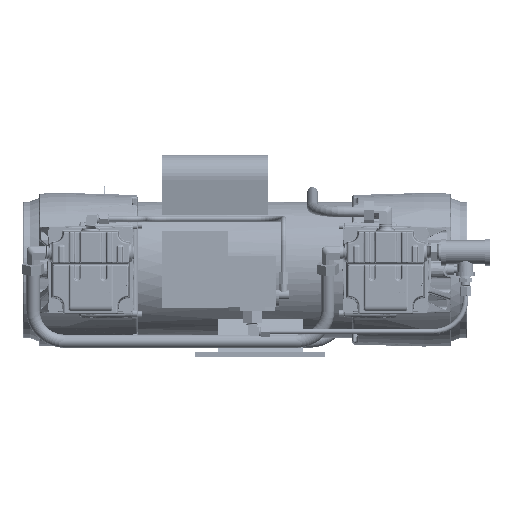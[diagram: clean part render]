
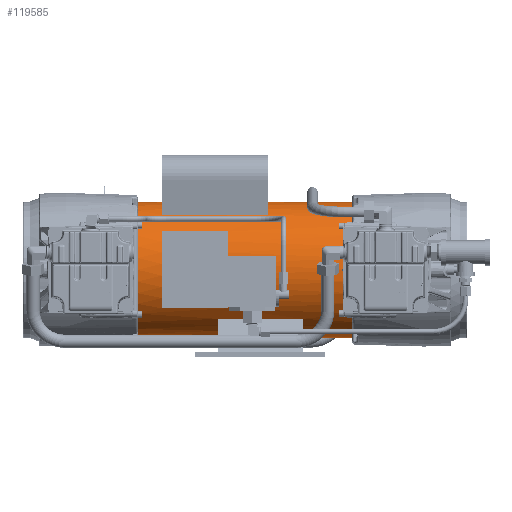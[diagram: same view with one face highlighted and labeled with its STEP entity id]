
A CAD part, left-side view. The second image highlights one B-rep face of the part: STEP entity #119585.
In plain terms, the highlighted cylindrical face has radius 81.534 mm (diameter 163.068 mm), a partial arc.
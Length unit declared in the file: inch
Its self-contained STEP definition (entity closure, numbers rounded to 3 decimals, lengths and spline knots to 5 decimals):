
#1160 = VERTEX_POINT ( 'NONE', #35369 ) ;
#3156 = ORIENTED_EDGE ( 'NONE', *, *, #183098, .T. ) ;
#4837 = AXIS2_PLACEMENT_3D ( 'NONE', #84893, #201835, #101775 ) ;
#5405 = DIRECTION ( 'NONE',  ( 0., 1., 0. ) ) ;
#8984 = CARTESIAN_POINT ( 'NONE',  ( 0., -5.054, 3.21 ) ) ;
#10658 = ORIENTED_EDGE ( 'NONE', *, *, #124179, .F. ) ;
#11564 = VERTEX_POINT ( 'NONE', #149663 ) ;
#11661 = EDGE_CURVE ( 'NONE', #159170, #31722, #138720, .T. ) ;
#17019 = VECTOR ( 'NONE', #211091, 39.37008 ) ;
#19076 = DIRECTION ( 'NONE',  ( 0., 1., 0. ) ) ;
#20092 = DIRECTION ( 'NONE',  ( 0., 1., 0. ) ) ;
#21128 = CARTESIAN_POINT ( 'NONE',  ( 0., -5.054, 0. ) ) ;
#21338 = CARTESIAN_POINT ( 'NONE',  ( 0., -1.074, 3.21 ) ) ;
#21406 = VECTOR ( 'NONE', #142877, 39.37008 ) ;
#21585 = ORIENTED_EDGE ( 'NONE', *, *, #61392, .T. ) ;
#22425 = VECTOR ( 'NONE', #208206, 39.37008 ) ;
#23286 = VERTEX_POINT ( 'NONE', #60911 ) ;
#23593 = EDGE_CURVE ( 'NONE', #23286, #11564, #99303, .T. ) ;
#23765 = CARTESIAN_POINT ( 'NONE',  ( 0., 5.054, -3.21 ) ) ;
#24825 = EDGE_CURVE ( 'NONE', #58344, #174805, #46529, .T. ) ;
#25384 = ORIENTED_EDGE ( 'NONE', *, *, #207524, .T. ) ;
#27070 = AXIS2_PLACEMENT_3D ( 'NONE', #59803, #176911, #76717 ) ;
#28782 = EDGE_LOOP ( 'NONE', ( #183959, #76843, #21585, #148732, #59742, #25384, #109341, #172781, #10658, #55379, #100307, #175374 ) ) ;
#30548 = CARTESIAN_POINT ( 'NONE',  ( -2.65104, 3.926, -1.81 ) ) ;
#31428 = EDGE_CURVE ( 'NONE', #180318, #156882, #81082, .T. ) ;
#31722 = VERTEX_POINT ( 'NONE', #139148 ) ;
#34619 = CARTESIAN_POINT ( 'NONE',  ( -2.65104, 0.786, 1.81 ) ) ;
#35369 = CARTESIAN_POINT ( 'NONE',  ( 0., 1.276, -3.21 ) ) ;
#36359 = CARTESIAN_POINT ( 'NONE',  ( 0., -5.054, -3.21 ) ) ;
#37863 = CARTESIAN_POINT ( 'NONE',  ( -2.65104, 0.786, 1.81 ) ) ;
#46529 = LINE ( 'NONE', #34619, #185243 ) ;
#48181 = AXIS2_PLACEMENT_3D ( 'NONE', #21128, #121373, #188592 ) ;
#52702 = DIRECTION ( 'NONE',  ( 0., 1., 0. ) ) ;
#54415 = VERTEX_POINT ( 'NONE', #187391 ) ;
#55379 = ORIENTED_EDGE ( 'NONE', *, *, #147557, .T. ) ;
#55453 = DIRECTION ( 'NONE',  ( 0., 1., 0. ) ) ;
#56365 = EDGE_CURVE ( 'NONE', #56701, #67485, #108965, .T. ) ;
#56701 = VERTEX_POINT ( 'NONE', #214790 ) ;
#56715 = FACE_BOUND ( 'NONE', #90553, .T. ) ;
#57564 = EDGE_CURVE ( 'NONE', #101145, #130739, #77238, .T. ) ;
#58049 = CARTESIAN_POINT ( 'NONE',  ( -1.88159, 3.926, 2.60072 ) ) ;
#58344 = VERTEX_POINT ( 'NONE', #37863 ) ;
#58566 = EDGE_CURVE ( 'NONE', #11564, #92743, #189664, .T. ) ;
#59742 = ORIENTED_EDGE ( 'NONE', *, *, #103836, .F. ) ;
#59803 = CARTESIAN_POINT ( 'NONE',  ( 0., 3.926, 0. ) ) ;
#60911 = CARTESIAN_POINT ( 'NONE',  ( 0., -2.724, -3.21 ) ) ;
#61006 = DIRECTION ( 'NONE',  ( 0., 1., 0. ) ) ;
#61392 = EDGE_CURVE ( 'NONE', #31722, #67485, #66889, .T. ) ;
#63075 = ORIENTED_EDGE ( 'NONE', *, *, #24825, .F. ) ;
#66889 = LINE ( 'NONE', #157182, #22425 ) ;
#67485 = VERTEX_POINT ( 'NONE', #21338 ) ;
#67953 = CARTESIAN_POINT ( 'NONE',  ( -2.65104, 0.786, -1.81 ) ) ;
#70012 = DIRECTION ( 'NONE',  ( 0., 1., 0. ) ) ;
#73973 = AXIS2_PLACEMENT_3D ( 'NONE', #119342, #19076, #136223 ) ;
#75202 = LINE ( 'NONE', #58049, #203338 ) ;
#76717 = DIRECTION ( 'NONE',  ( 1., 0., 0. ) ) ;
#76843 = ORIENTED_EDGE ( 'NONE', *, *, #11661, .T. ) ;
#77238 = CIRCLE ( 'NONE', #4837, 3.21 ) ;
#81082 = LINE ( 'NONE', #127692, #209226 ) ;
#81253 = DIRECTION ( 'NONE',  ( 0., 1., 0. ) ) ;
#84893 = CARTESIAN_POINT ( 'NONE',  ( 0., 5.054, 0. ) ) ;
#86284 = AXIS2_PLACEMENT_3D ( 'NONE', #153031, #52702, #169851 ) ;
#90553 = EDGE_LOOP ( 'NONE', ( #3156, #63075, #158650, #162575 ) ) ;
#92743 = VERTEX_POINT ( 'NONE', #184199 ) ;
#93510 = DIRECTION ( 'NONE',  ( 0., 1., 0. ) ) ;
#99303 = CIRCLE ( 'NONE', #86284, 3.21 ) ;
#100307 = ORIENTED_EDGE ( 'NONE', *, *, #58566, .F. ) ;
#101145 = VERTEX_POINT ( 'NONE', #23765 ) ;
#101315 = FACE_OUTER_BOUND ( 'NONE', #28782, .T. ) ;
#101775 = DIRECTION ( 'NONE',  ( 1., 0., 0. ) ) ;
#103836 = EDGE_CURVE ( 'NONE', #160414, #56701, #75202, .T. ) ;
#105371 = AXIS2_PLACEMENT_3D ( 'NONE', #155737, #55453, #172541 ) ;
#105608 = CARTESIAN_POINT ( 'NONE',  ( 0., -5.054, 0. ) ) ;
#106305 = EDGE_CURVE ( 'NONE', #180318, #58344, #181835, .T. ) ;
#108644 = DIRECTION ( 'NONE',  ( 0., -1., 0. ) ) ;
#108965 = CIRCLE ( 'NONE', #160276, 3.21 ) ;
#109341 = ORIENTED_EDGE ( 'NONE', *, *, #156167, .T. ) ;
#111063 = CARTESIAN_POINT ( 'NONE',  ( -2.22813, -2.724, -2.31074 ) ) ;
#112627 = CIRCLE ( 'NONE', #73973, 3.21 ) ;
#119342 = CARTESIAN_POINT ( 'NONE',  ( 0., 3.926, 0. ) ) ;
#119585 = ADVANCED_FACE ( 'NONE', ( #101315, #56715 ), #140611, .T. ) ;
#120376 = CARTESIAN_POINT ( 'NONE',  ( 0., 1.276, 0. ) ) ;
#121373 = DIRECTION ( 'NONE',  ( 0., 1., 0. ) ) ;
#122423 = DIRECTION ( 'NONE',  ( 1., 0., 0. ) ) ;
#124179 = EDGE_CURVE ( 'NONE', #1160, #101145, #125465, .T. ) ;
#125465 = LINE ( 'NONE', #36359, #193330 ) ;
#127692 = CARTESIAN_POINT ( 'NONE',  ( -2.65104, 0.786, -1.81 ) ) ;
#128324 = CARTESIAN_POINT ( 'NONE',  ( -2.65104, 3.926, 1.81 ) ) ;
#128518 = AXIS2_PLACEMENT_3D ( 'NONE', #120376, #20092, #137234 ) ;
#128786 = LINE ( 'NONE', #192878, #167985 ) ;
#130739 = VERTEX_POINT ( 'NONE', #145235 ) ;
#130865 = CARTESIAN_POINT ( 'NONE',  ( -1.88159, 3.926, 2.60072 ) ) ;
#131226 = CIRCLE ( 'NONE', #128518, 3.21 ) ;
#136223 = DIRECTION ( 'NONE',  ( 1., 0., 0. ) ) ;
#137234 = DIRECTION ( 'NONE',  ( 1., 0., 0. ) ) ;
#138720 = CIRCLE ( 'NONE', #160410, 3.21 ) ;
#139148 = CARTESIAN_POINT ( 'NONE',  ( 0., -5.054, 3.21 ) ) ;
#140611 = CYLINDRICAL_SURFACE ( 'NONE', #48181, 3.21 ) ;
#142877 = DIRECTION ( 'NONE',  ( 0., 1., 0. ) ) ;
#145235 = CARTESIAN_POINT ( 'NONE',  ( 0., 5.054, 3.21 ) ) ;
#147557 = EDGE_CURVE ( 'NONE', #1160, #92743, #131226, .T. ) ;
#148732 = ORIENTED_EDGE ( 'NONE', *, *, #56365, .F. ) ;
#149663 = CARTESIAN_POINT ( 'NONE',  ( -2.22813, -2.724, -2.31074 ) ) ;
#153031 = CARTESIAN_POINT ( 'NONE',  ( 0., -2.724, 0. ) ) ;
#155737 = CARTESIAN_POINT ( 'NONE',  ( 0., 0.786, 0. ) ) ;
#156167 = EDGE_CURVE ( 'NONE', #54415, #130739, #160226, .T. ) ;
#156882 = VERTEX_POINT ( 'NONE', #30548 ) ;
#157182 = CARTESIAN_POINT ( 'NONE',  ( 0., -5.054, 3.21 ) ) ;
#158650 = ORIENTED_EDGE ( 'NONE', *, *, #106305, .F. ) ;
#159170 = VERTEX_POINT ( 'NONE', #184092 ) ;
#160226 = LINE ( 'NONE', #8984, #21406 ) ;
#160276 = AXIS2_PLACEMENT_3D ( 'NONE', #181480, #81253, #198232 ) ;
#160410 = AXIS2_PLACEMENT_3D ( 'NONE', #105608, #5405, #122423 ) ;
#160414 = VERTEX_POINT ( 'NONE', #130865 ) ;
#162575 = ORIENTED_EDGE ( 'NONE', *, *, #31428, .T. ) ;
#167985 = VECTOR ( 'NONE', #93510, 39.37008 ) ;
#169851 = DIRECTION ( 'NONE',  ( 1., 0., 0. ) ) ;
#172541 = DIRECTION ( 'NONE',  ( 1., 0., 0. ) ) ;
#172781 = ORIENTED_EDGE ( 'NONE', *, *, #57564, .F. ) ;
#173892 = CIRCLE ( 'NONE', #27070, 3.21 ) ;
#174805 = VERTEX_POINT ( 'NONE', #128324 ) ;
#175374 = ORIENTED_EDGE ( 'NONE', *, *, #23593, .F. ) ;
#176911 = DIRECTION ( 'NONE',  ( 0., 1., 0. ) ) ;
#180318 = VERTEX_POINT ( 'NONE', #67953 ) ;
#181480 = CARTESIAN_POINT ( 'NONE',  ( 0., -1.074, 0. ) ) ;
#181835 = CIRCLE ( 'NONE', #105371, 3.21 ) ;
#183098 = EDGE_CURVE ( 'NONE', #156882, #174805, #173892, .T. ) ;
#183959 = ORIENTED_EDGE ( 'NONE', *, *, #205891, .F. ) ;
#184092 = CARTESIAN_POINT ( 'NONE',  ( 0., -5.054, -3.21 ) ) ;
#184199 = CARTESIAN_POINT ( 'NONE',  ( -2.22813, 1.276, -2.31074 ) ) ;
#185243 = VECTOR ( 'NONE', #186071, 39.37008 ) ;
#186071 = DIRECTION ( 'NONE',  ( 0., 1., 0. ) ) ;
#187391 = CARTESIAN_POINT ( 'NONE',  ( 0., 3.926, 3.21 ) ) ;
#188592 = DIRECTION ( 'NONE',  ( 0., 0., 1. ) ) ;
#189664 = LINE ( 'NONE', #111063, #17019 ) ;
#192878 = CARTESIAN_POINT ( 'NONE',  ( 0., -5.054, -3.21 ) ) ;
#193330 = VECTOR ( 'NONE', #70012, 39.37008 ) ;
#198232 = DIRECTION ( 'NONE',  ( 1., 0., 0. ) ) ;
#201835 = DIRECTION ( 'NONE',  ( 0., 1., 0. ) ) ;
#203338 = VECTOR ( 'NONE', #108644, 39.37008 ) ;
#205891 = EDGE_CURVE ( 'NONE', #159170, #23286, #128786, .T. ) ;
#207524 = EDGE_CURVE ( 'NONE', #160414, #54415, #112627, .T. ) ;
#208206 = DIRECTION ( 'NONE',  ( 0., 1., 0. ) ) ;
#209226 = VECTOR ( 'NONE', #61006, 39.37008 ) ;
#211091 = DIRECTION ( 'NONE',  ( 0., 1., 0. ) ) ;
#214790 = CARTESIAN_POINT ( 'NONE',  ( -1.88159, -1.074, 2.60072 ) ) ;
